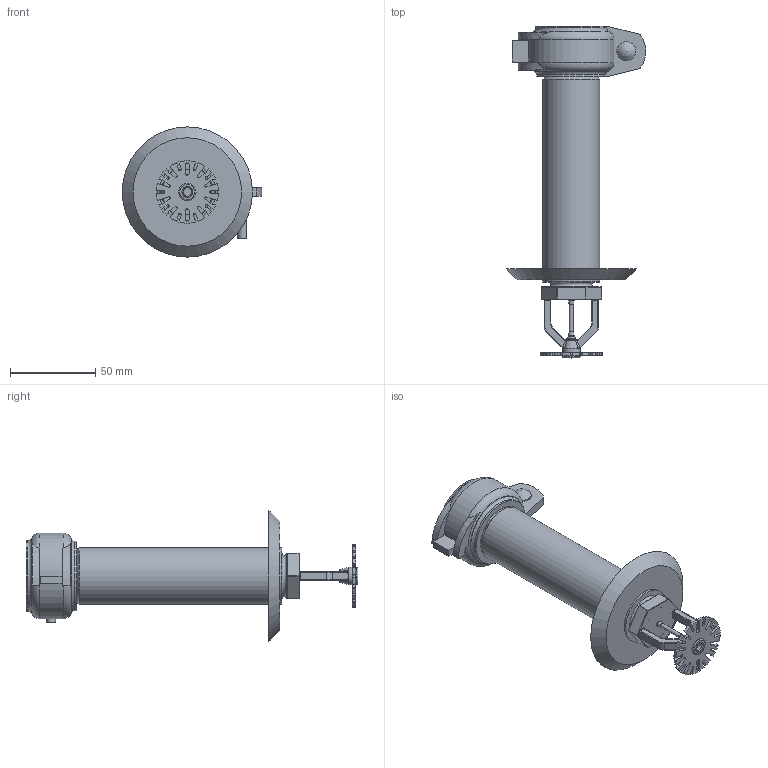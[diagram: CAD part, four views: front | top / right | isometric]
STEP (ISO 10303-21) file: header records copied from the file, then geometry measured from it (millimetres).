
FILE_DESCRIPTION(/* description */ ('VIC SPRINKLER V3613 K5.6 DRY PENDENT STANDARD RESPONSE w/V9 (IGS)'),/* implementation_level */ '2;1');
FILE_NAME(/* name */ 'C:\Users\Public\Documents\Victaulic.Temp\A161\Victaulic_FP-Sprinkler_V3613_DRY_SR_Pendent_V9 (IGS)_FLS_1 (25).stp',/* time_stamp */ '2024-09-24T08:10:38+02:00',/* author */ ('kkamble'),/* organization */ ('Victaulic'),/* preprocessor_version */ 'ST-DEVELOPER v18',/* originating_system */ 'Autodesk Inventor 2020',/* authorisation */ '');
FILE_SCHEMA (('AUTOMOTIVE_DESIGN { 1 0 10303 214 3 1 1 }'));
Length unit declared in the file: inch
Products named in the file (3): V3613_Flush-01.0; V3613_Flush; V9-01.0x01.0
Assembly tree (2 placements, depth 2):
  V3613_Flush-01.0
    V3613_Flush
    V9-01.0x01.0
Bounding box: 81.66 x 194.18 x 76.2 mm (x, y, z)
Volume: 90279.7 mm3; surface area: 55451.2 mm2
Topology: 2 solids, 2 shells, 387 faces, 1015 edges, 644 vertices
Faces by surface type: plane 138, cylinder 126, bspline 71, torus 31, sphere 12, cone 9
Full cylindrical faces by diameter (mm): 2.54 x1, 5.08 x3, 6.35 x1, 10.16 x2, 11.112 x1, 20.93 x1, 26.645 x2, 30.226 x1, 33.401 x5, 36.703 x1, 37.465 x1, 45.974 x2
Entity records: 13900 total; most frequent: CARTESIAN_POINT 3940, ORIENTED_EDGE 2020, DIRECTION 1956, EDGE_CURVE 1010, AXIS2_PLACEMENT_3D 755, VERTEX_POINT 644, LINE 446, VECTOR 446
